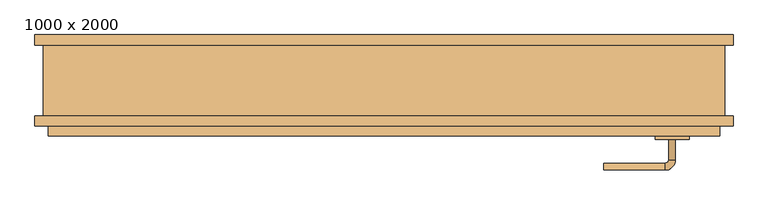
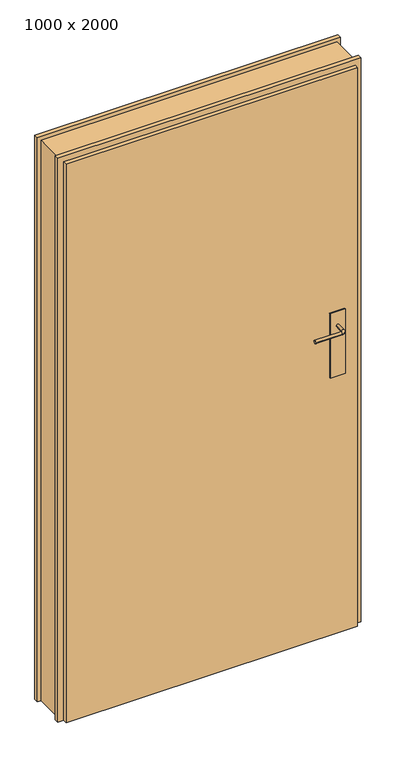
"""IFC4 building model written with IfcOpenShell, lengths in millimetres: door geometry, Door_Zeppelin-Rental-GmbH_Single-Leaf-Door : 1000 x 2000."""

from ifc_helpers import new_model, si_unit, point, frame, origin, place, context, project, spatial, polyline, circle_curve, ellipse_curve, trimmed, outline, extrude, faceted_brep, source, transform, mapped, element, save
from ifc_brep_helpers import plane_surface, cylinder_surface, revolved_surface, advanced_brep


def door_1000_x_2000_992f7151(model_context):
    return source(origin(), model_context, "Body", "SolidModel", [
        extrude(outline(polyline([(447.5, -36.5000092), (447.5, -41.5000092), (397.5, -41.5000092), (397.5, -36.5000092), (447.5, -36.5000092)])), frame((0.0, 0.0, 920.0), z_axis=(0.0, 0.0, 1.0), x_axis=(1.0, 0.0, 0.0)), (0.0, 0.0, 1.0), 230.0),
        advanced_brep(
        [(417.5, -36.5000092, 1100.0), (427.5, -36.5000092, 1100.0), (417.5, -6.5000092, 1100.0), (427.5, -6.5000092, 1100.0), (412.5, -1.5000092, 1100.0), (412.5, 8.4999908, 1100.0), (322.5007022, -1.5000092, 1100.0), (322.5007022, 8.4999908, 1100.0)],
        [
            (0, 1, circle_curve(frame((422.5, -36.5000092, 1100.0), z_axis=(0.0, -1.0, 0.0), x_axis=(1.0, 0.0, 0.0)), 5.0)),
            (1, 0, circle_curve(frame((422.5, -36.5000092, 1100.0), z_axis=(0.0, -1.0, 0.0), x_axis=(1.0, 0.0, 0.0)), 5.0)),
            (0, 2),
            (2, 3, circle_curve(frame((422.5, -6.5000092, 1100.0), z_axis=(0.0, -1.0, 0.0), x_axis=(1.0, 0.0, 0.0)), 5.0)),
            (3, 1),
            (3, 2, circle_curve(frame((422.5, -6.5000092, 1100.0), z_axis=(0.0, -1.0, 0.0), x_axis=(1.0, 0.0, 0.0)), 5.0)),
            (4, 5, circle_curve(frame((412.5, 3.4999908, 1100.0), z_axis=(1.0, 0.0, 0.0), x_axis=(0.0, 1.0, 0.0)), 5.0)),
            (5, 3, circle_curve(frame((412.5, -6.5000092, 1100.0), z_axis=(0.0, 0.0, -1.0), x_axis=(1.0, 0.0, 0.0)), 15.0)),
            (2, 4, circle_curve(frame((412.5, -6.5000092, 1100.0), z_axis=(0.0, 0.0, 1.0), x_axis=(1.0, 0.0, 0.0)), 5.0)),
            (5, 4, circle_curve(frame((412.5, 3.4999908, 1100.0), z_axis=(1.0, 0.0, 0.0), x_axis=(0.0, 1.0, 0.0)), 5.0)),
            (6, 7, circle_curve(frame((322.5007022, 3.4999908, 1100.0), z_axis=(-1.0, 0.0, 0.0), x_axis=(0.0, 1.0, 0.0)), 5.0)),
            (7, 6, circle_curve(frame((322.5007022, 3.4999908, 1100.0), z_axis=(-1.0, 0.0, 0.0), x_axis=(0.0, 1.0, 0.0)), 5.0)),
            (4, 6),
            (7, 5),
        ],
        [
            plane_surface(frame((422.5, -36.5000092, 1100.0), z_axis=(0.0, -1.0, 0.0), x_axis=(0.0, 0.0, 1.0))),
            cylinder_surface(frame((422.5, -36.5000092, 1100.0), z_axis=(0.0, -1.0, 0.0), x_axis=(1.0, 0.0, 0.0)), 5.0),
            revolved_surface(trimmed(ellipse_curve(frame((422.5, -6.5000092, 1100.0), z_axis=(0.0, 1.0, 0.0), x_axis=(1.0, 0.0, 0.0)), 5.0, 5.0), [point((427.5, -6.5000092, 1100.0))], [point((417.5, -6.5000092, 1100.0))], True, "CARTESIAN"), (412.5, -6.5000092, 1100.0), (0.0, 0.0, -1.0)),
            revolved_surface(trimmed(ellipse_curve(frame((422.5, -6.5000092, 1100.0), z_axis=(0.0, 1.0, 0.0), x_axis=(1.0, 0.0, 0.0)), 5.0, 5.0), [point((417.5, -6.5000092, 1100.0))], [point((427.5, -6.5000092, 1100.0))], True, "CARTESIAN"), (412.5, -6.5000092, 1100.0), (0.0, 0.0, -1.0)),
            plane_surface(frame((322.5007022, 3.4999908, 1100.0), z_axis=(-1.0, 0.0, 0.0), x_axis=(0.0, 0.0, 1.0))),
            cylinder_surface(frame((412.5, 3.4999908, 1100.0), z_axis=(1.0, 0.0, 0.0), x_axis=(0.0, 1.0, 0.0)), 5.0),
        ],
        [
            (0, [[1, 2]]),
            (1, [[3, 4, 5, -1]]),
            (1, [[-5, 6, -3, -2]]),
            (2, [[7, 8, -4, 9]]),
            (3, [[10, -9, -6, -8]]),
            (4, [[11, 12]]),
            (5, [[13, -12, 14, -7]]),
            (5, [[-14, -11, -13, -10]]),
        ],
    ),
        extrude(outline(polyline([(397.5, -86.5000092), (397.5, -81.5000092), (447.5, -81.5000092), (447.5, -86.5000092), (397.5, -86.5000092)])), frame((0.0, 0.0, 920.0), z_axis=(0.0, 0.0, 1.0), x_axis=(1.0, 0.0, 0.0)), (0.0, 0.0, 1.0), 230.0),
        advanced_brep(
        [(427.5, -86.5000092, 1100.0), (417.5, -86.5000092, 1100.0), (417.5, -116.5000092, 1100.0), (427.5, -116.5000092, 1100.0), (412.5, -121.5000092, 1100.0), (412.5, -131.5000092, 1100.0), (322.5007022, -131.5000092, 1100.0), (322.5007022, -121.5000092, 1100.0)],
        [
            (0, 1, circle_curve(frame((422.5, -86.5000092, 1100.0), z_axis=(0.0, 1.0, 0.0), x_axis=(-1.0, 0.0, 0.0)), 5.0)),
            (1, 0, circle_curve(frame((422.5, -86.5000092, 1100.0), z_axis=(0.0, 1.0, 0.0), x_axis=(-1.0, 0.0, 0.0)), 5.0)),
            (1, 2),
            (2, 3, circle_curve(frame((422.5, -116.5000092, 1100.0), z_axis=(0.0, 1.0, 0.0), x_axis=(-1.0, 0.0, 0.0)), 5.0)),
            (3, 0),
            (3, 2, circle_curve(frame((422.5, -116.5000092, 1100.0), z_axis=(0.0, 1.0, 0.0), x_axis=(-1.0, 0.0, 0.0)), 5.0)),
            (4, 5, circle_curve(frame((412.5, -126.5000092, 1100.0), z_axis=(1.0, 0.0, 0.0), x_axis=(0.0, 1.0, 0.0)), 5.0)),
            (5, 3, circle_curve(frame((412.5, -116.5000092, 1100.0), z_axis=(0.0, 0.0, 1.0), x_axis=(1.0, 0.0, 0.0)), 15.0)),
            (2, 4, circle_curve(frame((412.5, -116.5000092, 1100.0), z_axis=(0.0, 0.0, -1.0), x_axis=(1.0, 0.0, 0.0)), 5.0)),
            (5, 4, circle_curve(frame((412.5, -126.5000092, 1100.0), z_axis=(1.0, 0.0, 0.0), x_axis=(0.0, 1.0, 0.0)), 5.0)),
            (6, 7, circle_curve(frame((322.5007022, -126.5000092, 1100.0), z_axis=(-1.0, 0.0, 0.0), x_axis=(0.0, 1.0, 0.0)), 5.0)),
            (7, 6, circle_curve(frame((322.5007022, -126.5000092, 1100.0), z_axis=(-1.0, 0.0, 0.0), x_axis=(0.0, 1.0, 0.0)), 5.0)),
            (4, 7),
            (6, 5),
        ],
        [
            plane_surface(frame((422.5, -86.5000092, 1100.0), z_axis=(0.0, 1.0, 0.0), x_axis=(0.0, 0.0, 1.0))),
            cylinder_surface(frame((422.5, -86.5000092, 1100.0), z_axis=(0.0, 1.0, 0.0), x_axis=(-1.0, 0.0, 0.0)), 5.0),
            revolved_surface(trimmed(ellipse_curve(frame((422.5, -116.5000092, 1100.0), z_axis=(0.0, -1.0, 0.0), x_axis=(-1.0, 0.0, 0.0)), 5.0, 5.0), [point((427.5, -116.5000092, 1100.0))], [point((417.5, -116.5000092, 1100.0))], True, "CARTESIAN"), (412.5, -116.5000092, 1100.0), (0.0, 0.0, 1.0)),
            revolved_surface(trimmed(ellipse_curve(frame((422.5, -116.5000092, 1100.0), z_axis=(0.0, -1.0, 0.0), x_axis=(-1.0, 0.0, 0.0)), 5.0, 5.0), [point((417.5, -116.5000092, 1100.0))], [point((427.5, -116.5000092, 1100.0))], True, "CARTESIAN"), (412.5, -116.5000092, 1100.0), (0.0, 0.0, 1.0)),
            plane_surface(frame((322.5007022, -126.5000092, 1100.0), z_axis=(-1.0, 0.0, 0.0), x_axis=(0.0, 0.0, 1.0))),
            cylinder_surface(frame((412.5, -126.5000092, 1100.0), z_axis=(1.0, 0.0, 0.0), x_axis=(0.0, 1.0, 0.0)), 5.0),
        ],
        [
            (0, [[1, 2]]),
            (1, [[3, 4, 5, -2]]),
            (1, [[-5, 6, -3, -1]]),
            (2, [[7, 8, -4, 9]]),
            (3, [[10, -9, -6, -8]]),
            (4, [[11, 12]]),
            (5, [[13, -11, 14, -7]]),
            (5, [[-14, -12, -13, -10]]),
        ],
    ),
        faceted_brep([(-479.5, -41.5000092, 0.0), (479.5, -41.5000092, 0.0), (479.5, -67.0000092, 0.0), (492.5, -67.0000092, 0.0), (492.5, -81.5000092, 0.0), (-492.5, -81.5000092, 0.0), (-492.5, -67.0000092, 0.0), (-479.5, -67.0000092, 0.0), (-479.5, -41.5000092, 1979.0), (479.5, -41.5000092, 1979.0), (479.5, -67.0000092, 1979.0), (-479.5, -67.0000092, 1979.0), (-492.5, -67.0000092, 1992.0), (492.5, -67.0000092, 1992.0), (492.5, -81.5000092, 1992.0), (-492.5, -81.5000092, 1992.0)], [[[0, 1, 2, 3, 4, 5, 6, 7]], [[0, 8, 9, 1]], [[1, 9, 10, 2]], [[2, 10, 11, 7, 6, 12, 13, 3]], [[13, 14, 4, 3]], [[4, 14, 15, 5]], [[5, 15, 12, 6]], [[7, 11, 8, 0]], [[12, 15, 14, 13]], [[10, 9, 8, 11]]]),
        faceted_brep([(482.0, -67.0000092, 0.0), (482.0, -39.0000092, 0.0), (467.0, -39.0000092, 0.0), (467.0, 2.9999908, 0.0), (482.0, 2.9999908, 0.0), (482.0, 67.0, 0.0), (512.0, 67.0, 0.0), (512.0, 52.0, 0.0), (500.0, 52.0, 0.0), (500.0, -52.0, 0.0), (512.0, -52.0, 0.0), (512.0, -67.0000092, 0.0), (-482.0, -67.0000092, 0.0), (-512.0, -67.0000092, 0.0), (-512.0, -52.0, 0.0), (-500.0, -52.0, 0.0), (-500.0, 52.0, 0.0), (-512.0, 52.0, 0.0), (-512.0, 67.0, 0.0), (-482.0, 67.0, 0.0), (-482.0, 2.9999908, 0.0), (-467.0, 2.9999908, 0.0), (-467.0, -39.0000092, 0.0), (-482.0, -39.0000092, 0.0), (512.0, -67.0000092, 2012.0), (-512.0, -67.0000092, 2012.0), (-482.0, -67.0000092, 1982.0), (482.0, -67.0000092, 1982.0), (512.0, -52.0, 2012.0), (500.0, -52.0, 2000.0), (-500.0, -52.0, 2000.0), (-512.0, -52.0, 2012.0), (500.0, 52.0, 2000.0), (512.0, 52.0, 2012.0), (-512.0, 52.0, 2012.0), (-500.0, 52.0, 2000.0), (512.0, 67.0, 2012.0), (482.0, 67.0, 1982.0), (-482.0, 67.0, 1982.0), (-512.0, 67.0, 2012.0), (482.0, -39.0000092, 1982.0), (-482.0, -39.0000092, 1982.0), (482.0, 2.9999908, 1982.0), (467.0, 2.9999908, 1967.0), (-467.0, 2.9999908, 1967.0), (-482.0, 2.9999908, 1982.0), (467.0, -39.0000092, 1967.0), (-467.0, -39.0000092, 1967.0)], [[[0, 1, 2, 3, 4, 5, 6, 7, 8, 9, 10, 11]], [[12, 13, 14, 15, 16, 17, 18, 19, 20, 21, 22, 23]], [[11, 24, 25, 13, 12, 26, 27, 0]], [[10, 28, 24, 11]], [[9, 29, 30, 15, 14, 31, 28, 10]], [[8, 32, 29, 9]], [[7, 33, 34, 17, 16, 35, 32, 8]], [[6, 36, 33, 7]], [[5, 37, 38, 19, 18, 39, 36, 6]], [[0, 27, 40, 1]], [[28, 31, 25, 24]], [[32, 35, 30, 29]], [[36, 39, 34, 33]], [[27, 26, 41, 40]], [[31, 14, 13, 25]], [[35, 16, 15, 30]], [[39, 18, 17, 34]], [[26, 12, 23, 41]], [[4, 42, 37, 5]], [[3, 43, 44, 21, 20, 45, 42, 4]], [[2, 46, 43, 3]], [[1, 40, 41, 23, 22, 47, 46, 2]], [[42, 45, 38, 37]], [[46, 47, 44, 43]], [[45, 20, 19, 38]], [[47, 22, 21, 44]]]),
    ])


if __name__ == "__main__":
    model = new_model("IFC4")
    model_context = context("Model", 3, world=origin())
    ifc_project = project(units=[si_unit("LENGTHUNIT", "METRE", prefix="MILLI")], contexts=[model_context])
    site = spatial("IfcSite", under=ifc_project)
    building = spatial("IfcBuilding", under=site)
    placement = place(None, origin())
    door_1000_x_2000_shape = door_1000_x_2000_992f7151(model_context)
    element("IfcDoor", 1, ObjectType="Door_Zeppelin-Rental-GmbH_Single-Leaf-Door : 1000 x 2000", at=placement, inside=building, context=model_context, shape_type="MappedRepresentation", body=[
        mapped(door_1000_x_2000_shape, transform((0.0, 0.0, 0.0), x_axis=(1.0, 0.0, 0.0), y_axis=(0.0, 1.0, 0.0), z_axis=(0.0, 0.0, 1.0))),
    ])
    save(model, "model.ifc")
